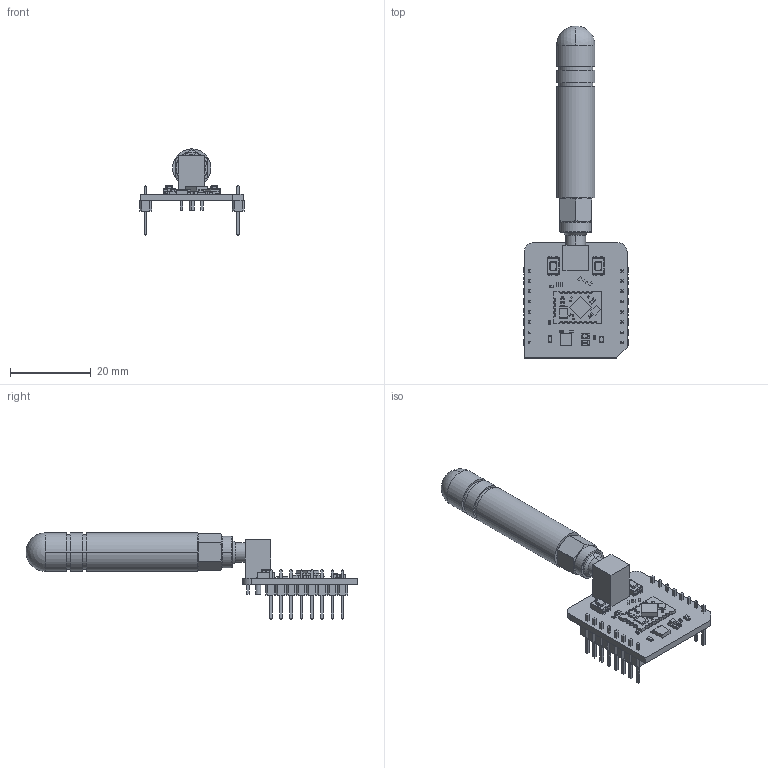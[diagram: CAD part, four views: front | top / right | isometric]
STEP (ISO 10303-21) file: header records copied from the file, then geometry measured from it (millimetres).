
FILE_DESCRIPTION(('Open CASCADE Model'),'2;1');
FILE_NAME('Open CASCADE Shape Model','2025-09-18T09:26:33',('Author'),( 'Open CASCADE'),'Open CASCADE STEP processor 6.8','Open CASCADE 6.8' ,'Unknown');
FILE_SCHEMA(('AUTOMOTIVE_DESIGN { 1 0 10303 214 1 1 1 1 }'));
Length unit declared in the file: millimetre
Products named in the file (45): PCB; Board; U1; 1160319624; Extruded; T2; User_Library-Switch-CK-KMR2; User_Library-Switch-CK-KMR2_Button; User_Library-Switch-CK-KMR2_Boitier; User_Library-Switch-CK-KMR2_Tole; User_Library-Switch-CK-KMR2_Pads; T1; R2; User_Library-R_0402; R3; LD3; User_Library-LED0603_BLUE-1; LD2; Led_0603; FB1; User_Library-Chip_InductorINDC1005X60N; CN1; User_Library-Antenna_AP22A; User_Library-sma_ra_pcb_mount_molex; C1; User_Library-SMD_CAPACITOR0402; C6; C5; C4; C3; MBD1; Header_1x8; Free-Models; 1240637040; User_Library-PinHeaderX5-1_PinHeaderX5_Body_1; User_Library-PinHeaderX5-1_PinHeaderX5_Pins_1; U2; 260905118xxx; C2; R4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
Assembly tree (54 placements, depth 7):
  PCB
    Board
    U1
      1160319624
        Extruded
    T2
      User_Library-Switch-CK-KMR2
        User_Library-Switch-CK-KMR2_Button
        User_Library-Switch-CK-KMR2_Boitier
        User_Library-Switch-CK-KMR2_Tole
        User_Library-Switch-CK-KMR2_Pads
    T1
      User_Library-Switch-CK-KMR2
        User_Library-Switch-CK-KMR2_Button
        User_Library-Switch-CK-KMR2_Boitier
        User_Library-Switch-CK-KMR2_Tole
        User_Library-Switch-CK-KMR2_Pads
    R2
      User_Library-R_0402
    R3
      User_Library-R_0402
    LD3
      User_Library-LED0603_BLUE-1
    LD2
      Led_0603
    FB1
      User_Library-Chip_InductorINDC1005X60N
    CN1
      User_Library-Antenna_AP22A
      User_Library-sma_ra_pcb_mount_molex
    C1
      User_Library-SMD_CAPACITOR0402
    C6
      User_Library-SMD_CAPACITOR0402
    C5
      User_Library-SMD_CAPACITOR0402
    C4
      User_Library-SMD_CAPACITOR0402
    C3
      User_Library-SMD_CAPACITOR0402
    MBD1
      Header_1x8  x2
        PCB
          Free-Models
            1240637040  x2
              User_Library-PinHeaderX5-1_PinHeaderX5_Body_1
              User_Library-PinHeaderX5-1_PinHeaderX5_Pins_1
    U2
      260905118xxx
    C2
      User_Library-SMD_CAPACITOR0402
    R4
      User_Library-R_0402
    LD1
      led_0805_green
    R1
      User_Library-R_0805
Bounding box: 25.78 x 82.17 x 21.36 mm (x, y, z)
Volume: 5606.8 mm3; surface area: 5940.9 mm2
Topology: 56 solids, 56 shells, 2097 faces, 5333 edges, 3342 vertices
Faces by surface type: plane 1536, cylinder 311, bspline 144, sphere 78, cone 18, torus 10
Entity records: 48920 total; most frequent: CARTESIAN_POINT 11477, ORIENTED_EDGE 6232, DIRECTION 5776, EDGE_CURVE 3116, LINE 2498, VECTOR 2498, VERTEX_POINT 1996, AXIS2_PLACEMENT_3D 1639
